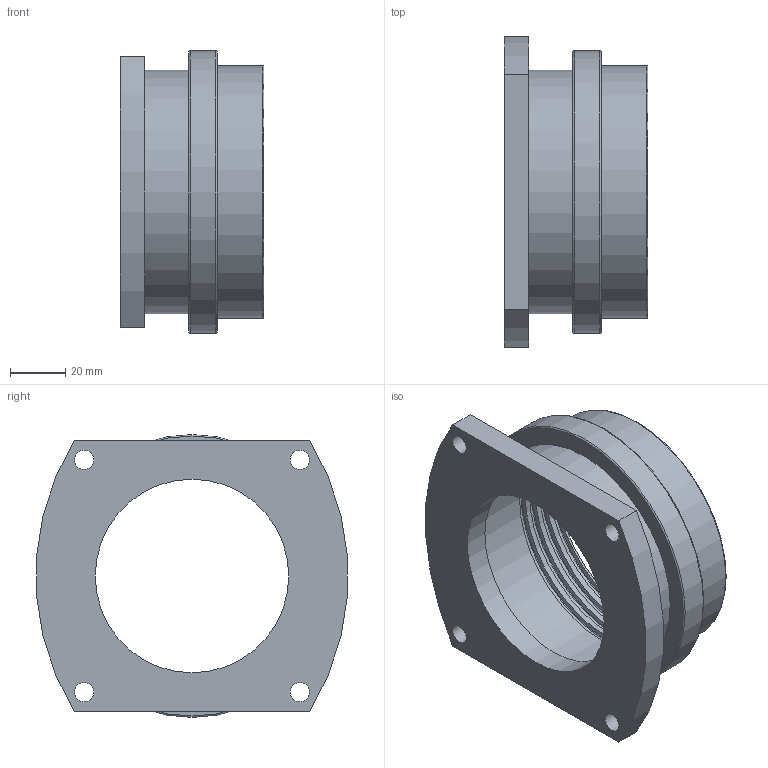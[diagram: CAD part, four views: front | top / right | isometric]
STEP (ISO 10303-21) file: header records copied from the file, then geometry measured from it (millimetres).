
FILE_DESCRIPTION( ( 'STEP AP214' ), '1' );
FILE_NAME( 'e:/temp/worker_28/temp/exporttempdir_7364_258_aE8sP/format_0/TNOC_IP65-G70B.stp', '2021-04-13T14:51:25', ( 'License CC BY-ND 4.0' ), ( 'CADENAS' ), ' ', 'PARTsolutions', ' ' );
FILE_SCHEMA( ( 'AUTOMOTIVE_DESIGN { 1 0 10303 214 1 1 1 1 }' ) );
Length unit declared in the file: millimetre
Products named in the file (1): _TNOC_IP65-G70B
Bounding box: 52 x 112.41 x 102.3 mm (x, y, z)
Volume: 110701.5 mm3; surface area: 48741.4 mm2
Topology: 1 solids, 1 shells, 46 faces, 100 edges, 60 vertices
Faces by surface type: cylinder 19, torus 11, cone 8, plane 8
Full cylindrical faces by diameter (mm): 7 x4, 70 x1, 83 x5, 86 x4, 88 x1, 91.4 x1, 102.3 x1
Entity records: 1414 total; most frequent: DIRECTION 200, CARTESIAN_POINT 157, ORIENTED_EDGE 114, AXIS2_PLACEMENT_3D 96, EDGE_LOOP 96, FACE_OUTER_BOUND 74, EDGE_CURVE 57, VERTEX_POINT 53
